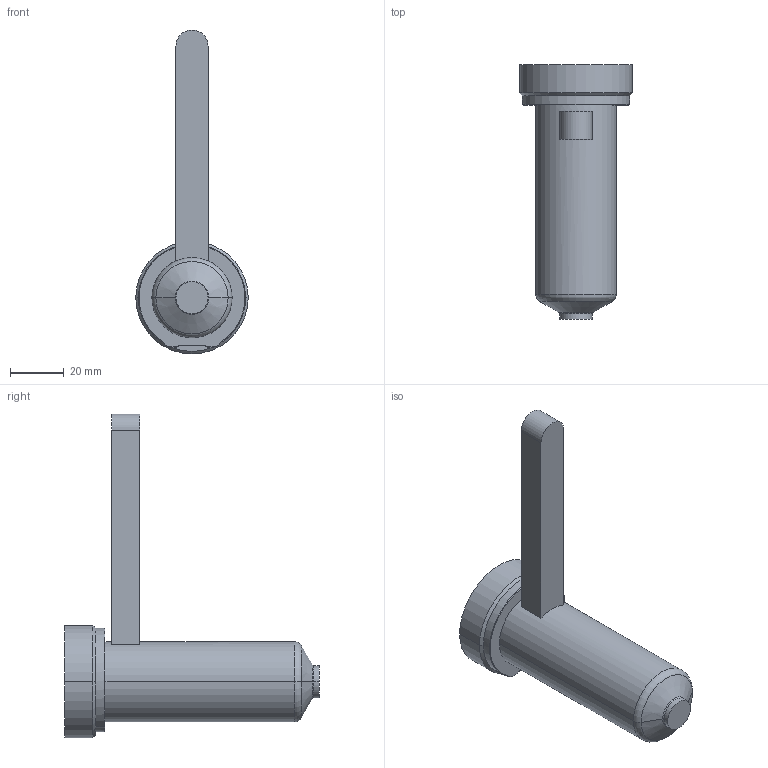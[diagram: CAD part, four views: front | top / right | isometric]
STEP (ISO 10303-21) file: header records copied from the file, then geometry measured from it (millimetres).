
FILE_DESCRIPTION((''),'2;1');
FILE_NAME('EO08_SG_SG_080_COT','2024-02-19T12:20:04',('sundharh'),(''),'CREO PARAMETRIC BY PTC INC, 2023154','CREO PARAMETRIC BY PTC INC, 2023154','');
FILE_SCHEMA(('CONFIG_CONTROL_DESIGN'));
Length unit declared in the file: millimetre
Products named in the file (1): EO08_SG_SG_080_COT
Bounding box: 42 x 95 x 121 mm (x, y, z)
Volume: 84182 mm3; surface area: 15390.3 mm2
Topology: 1 solids, 1 shells, 31 faces, 67 edges, 40 vertices
Faces by surface type: cylinder 11, plane 9, torus 7, cone 4
Entity records: 951 total; most frequent: CARTESIAN_POINT 218, DIRECTION 159, ORIENTED_EDGE 134, AXIS2_PLACEMENT_3D 67, EDGE_CURVE 67, VERTEX_POINT 40, CIRCLE 36, EDGE_LOOP 33
